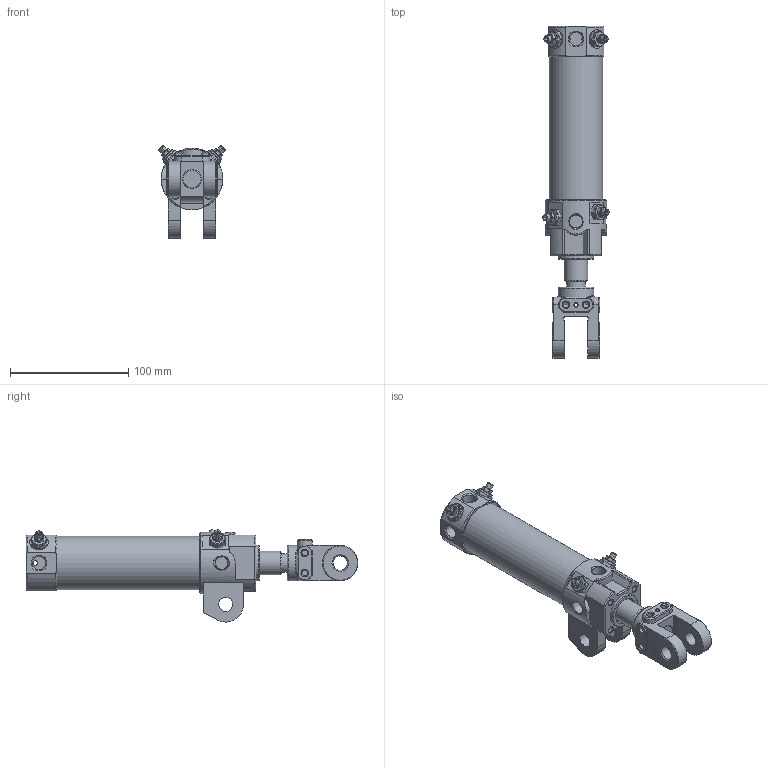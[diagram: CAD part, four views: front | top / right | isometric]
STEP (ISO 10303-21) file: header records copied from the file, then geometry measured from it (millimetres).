
FILE_DESCRIPTION((''),'2;1');
FILE_NAME('I:\3D電子目錄\氣缸\DCK\DCK\DCK-1B-40x75-Y.stp','2008-02-26T11:19:06',('Administrator'),(''),'Autodesk Inventor 11','Autodesk Inventor 11','');
FILE_SCHEMA(('AUTOMOTIVE_DESIGN { 1 0 10303 214 1 1 1 1 }'));
Length unit declared in the file: millimetre
Products named in the file (6): DCK-1B-40-Y; 緩衝針; 緩衝針-1; 緩衝針-201; 緩衝針-3
Assembly tree (8 placements, depth 3):
  DCK-1B-40-Y
    DCK-1B-40-Y
    緩衝針  x4
      緩衝針-1
      緩衝針-201
      緩衝針-3
Bounding box: 56.06 x 281 x 78.02 mm (x, y, z)
Volume: 232021.2 mm3; surface area: 98507.4 mm2
Topology: 15 solids, 15 shells, 729 faces, 1682 edges, 1040 vertices
Faces by surface type: plane 242, cylinder 217, cone 146, bspline 82, torus 40, sphere 2
Full cylindrical faces by diameter (mm): 2 x1, 3 x3, 3.8 x2, 4 x6, 4.6 x4, 5 x8, 5.1 x4, 5.2 x12, 5.5 x4, 7 x1, 7.25 x1, 7.9 x4, 8 x2, 8.3 x1, 10 x2, 12 x4, 12.8 x4, 16 x3, 20 x1, 21 x1, 22 x3, 23 x1, 24.7 x1, 26 x1, 28 x1, 29 x1, 30 x4, 33 x1, 40 x1, 42 x2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
Entity records: 25714 total; most frequent: CARTESIAN_POINT 15598, DIRECTION 1975, ORIENTED_EDGE 1956, EDGE_CURVE 978, AXIS2_PLACEMENT_3D 841, EDGE_LOOP 681, VERTEX_POINT 677, FACE_OUTER_BOUND 478
